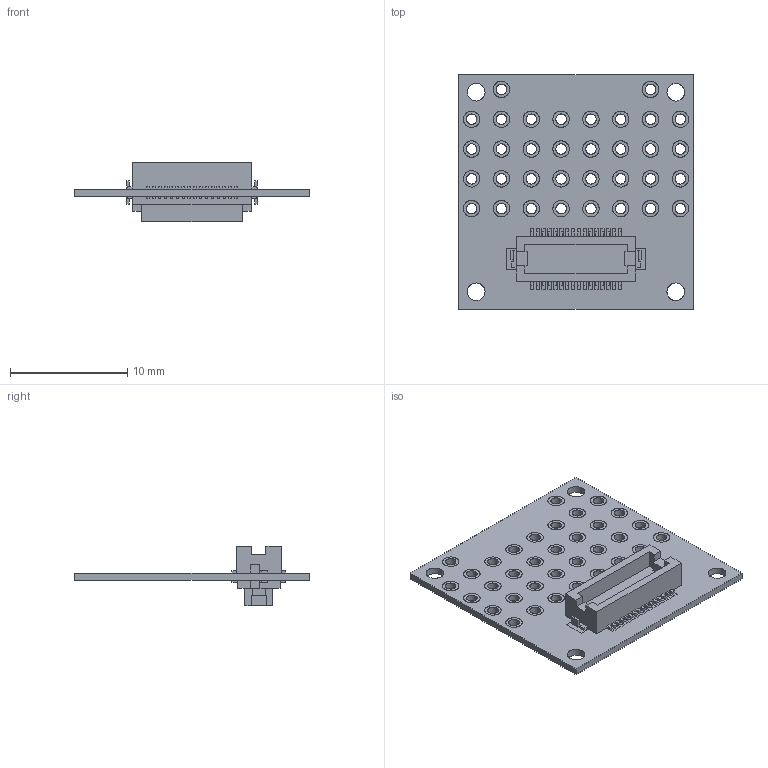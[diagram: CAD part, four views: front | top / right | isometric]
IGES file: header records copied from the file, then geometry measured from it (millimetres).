
Global section: file name: Filename.iges; native system: Open CASCADE 7.4; preprocessor: Open CASCADE IGES processor 7.4; date: 20200722.112618; units: millimetre
Bounding box: 20 x 20 x 5.1 mm (x, y, z)
Surface area: 2608.4 mm2 (no closed solid volume)
Topology: 0 solids, 0 shells, 2094 faces, 8792 edges, 8066 vertices
Faces by surface type: plane 1732, revolution 362
